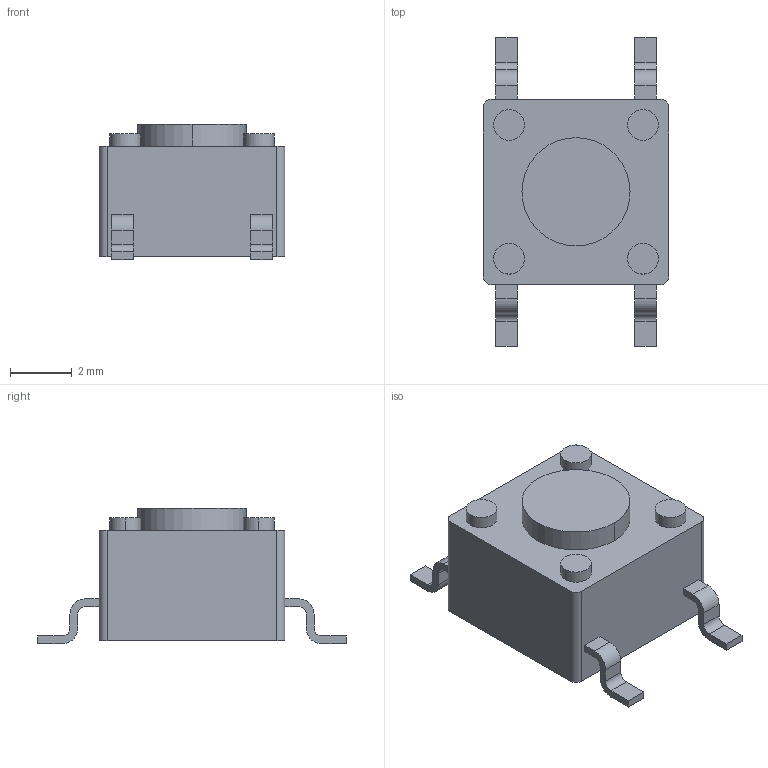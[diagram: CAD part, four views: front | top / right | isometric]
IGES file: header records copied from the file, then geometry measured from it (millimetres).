
Start section:  PTC IGES file: c-2-1437565-7-v-3d.igs
Global section: file name: c-2-1437565-7-v-3d.igs; native system: Creo Parametric by PTC Inc.; preprocessor: 2018190; author: workeradm; organization: Unknown; units: millimetre
Bounding box: 6 x 10 x 4.38 mm (x, y, z)
Surface area: 190.7 mm2 (no closed solid volume)
Topology: 0 solids, 0 shells, 77 faces, 396 edges, 396 vertices
Faces by surface type: bspline 47, revolution 30
